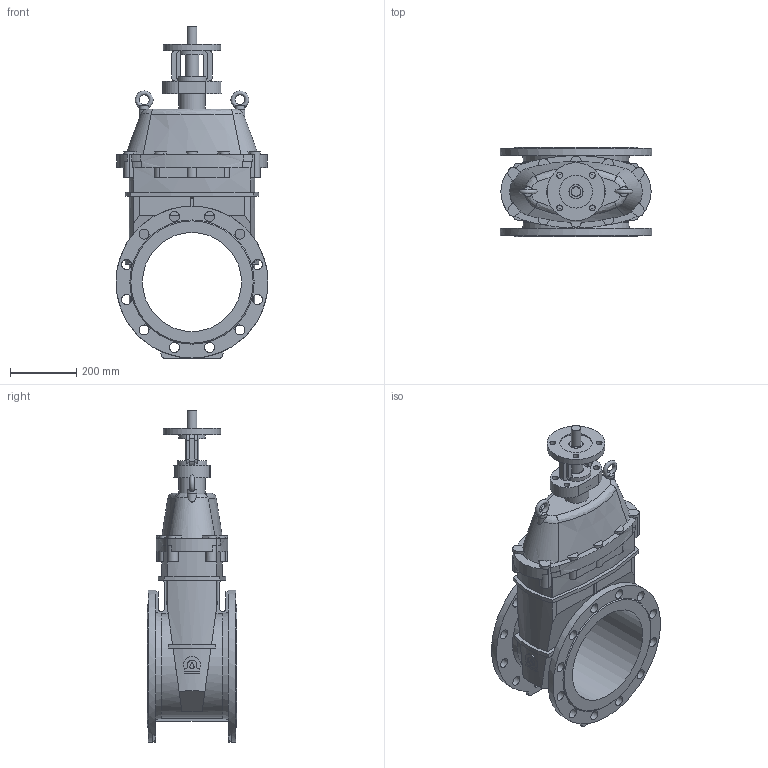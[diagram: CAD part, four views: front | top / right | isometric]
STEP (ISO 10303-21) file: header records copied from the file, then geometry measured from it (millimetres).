
FILE_DESCRIPTION(('STEP AP203'), '1');
FILE_NAME('Çàäâèæêà 47GV.M DN300 ñ ïåðåõîäîì ïîä ISO ôëàíåö', '', ('UNSPECIFIED'), ('UNSPECIFIED'), 'ASCON STEP Converter 1.6', 'ASCON Math Kernel', '');
FILE_SCHEMA(('CONFIG_CONTROL_DESIGN'));
Length unit declared in the file: millimetre
Bounding box: 460 x 270 x 1005 mm (x, y, z)
Volume: 32439597.3 mm3; surface area: 1637559.1 mm2
Topology: 1 solids, 1 shells, 328 faces, 919 edges, 609 vertices
Faces by surface type: plane 158, cylinder 143, cone 13, bspline 12, torus 2
Full cylindrical faces by diameter (mm): 18 x8, 30 x25, 36 x1, 42 x1, 43 x1, 46 x1, 79 x1, 100 x1, 106 x1, 175 x1, 300 x1, 460 x2
Entity records: 33883 total; most frequent: CARTESIAN_POINT 22873, ORIENTED_EDGE 1732, DIRECTION 1681, EDGE_CURVE 866, AXIS2_PLACEMENT_3D 646, VERTEX_POINT 607, EDGE_LOOP 465, LINE 389
